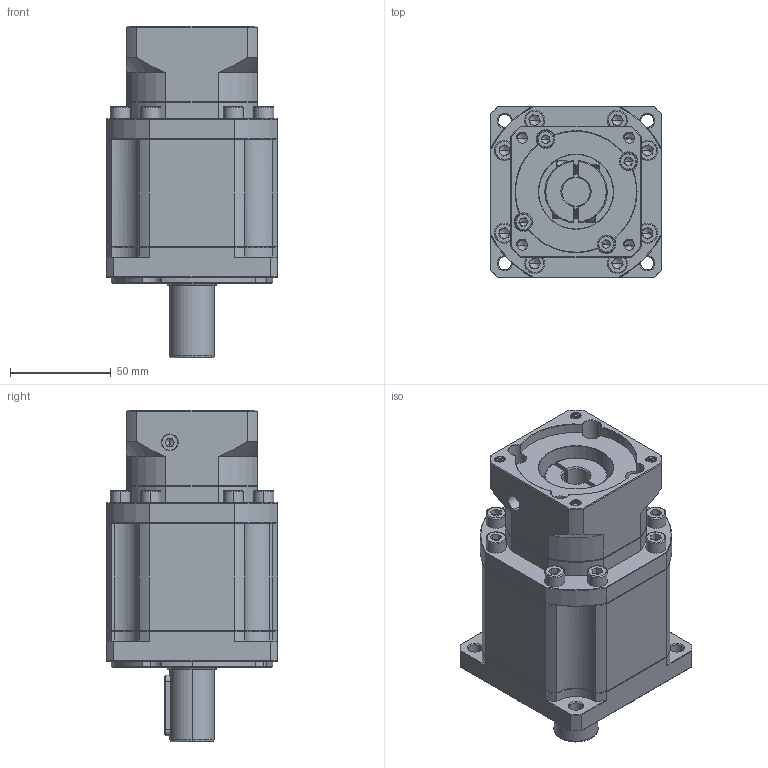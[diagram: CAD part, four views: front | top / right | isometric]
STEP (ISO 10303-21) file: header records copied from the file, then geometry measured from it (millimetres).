
FILE_DESCRIPTION (( 'STEP AP214' ), '1' );
FILE_NAME ('ZB090-D22-L3-P2-14-60-75-M6.step', '2023-08-18T13:38:41', ( '' ), ( '' ), 'SwSTEP 2.0', 'SolidWorks 2016', '' );
FILE_SCHEMA (( 'AUTOMOTIVE_DESIGN' ));
Length unit declared in the file: millimetre
Products named in the file (1): ZB090-D22-L3-P2-14-60-75-M6
Bounding box: 85 x 85 x 164.5 mm (x, y, z)
Volume: 661758.7 mm3; surface area: 83083.7 mm2
Topology: 6 solids, 6 shells, 2364 faces, 6292 edges, 4020 vertices
Faces by surface type: plane 1185, bspline 426, cylinder 405, cone 326, torus 22
Entity records: 125964 total; most frequent: CARTESIAN_POINT 44456, ORIENTED_EDGE 12492, DIRECTION 9990, EDGE_CURVE 6246, VERTEX_POINT 4020, LINE 3960, VECTOR 3960, AXIS2_PLACEMENT_3D 3015
